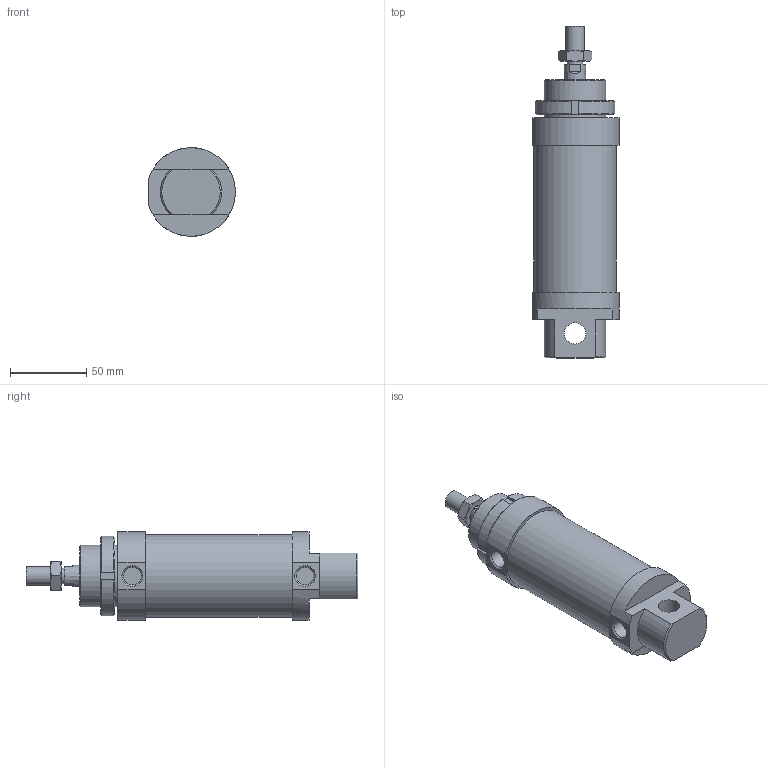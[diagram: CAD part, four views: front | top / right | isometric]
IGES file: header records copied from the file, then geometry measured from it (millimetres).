
Global section: file name: No Iges File Name specified; native system: AutoDesk Inventor R6.0; preprocessor: AutoDesk Inventor Iges Exporter R6.0; author: No Author specified; organization: No Organization specified; date: 20030402.144857; units: millimetre
Bounding box: 56.51 x 217 x 58 mm (x, y, z)
Surface area: 51885.6 mm2 (no closed solid volume)
Topology: 0 solids, 0 shells, 94 faces, 413 edges, 395 vertices
Faces by surface type: plane 44, revolution 39, bspline 11
